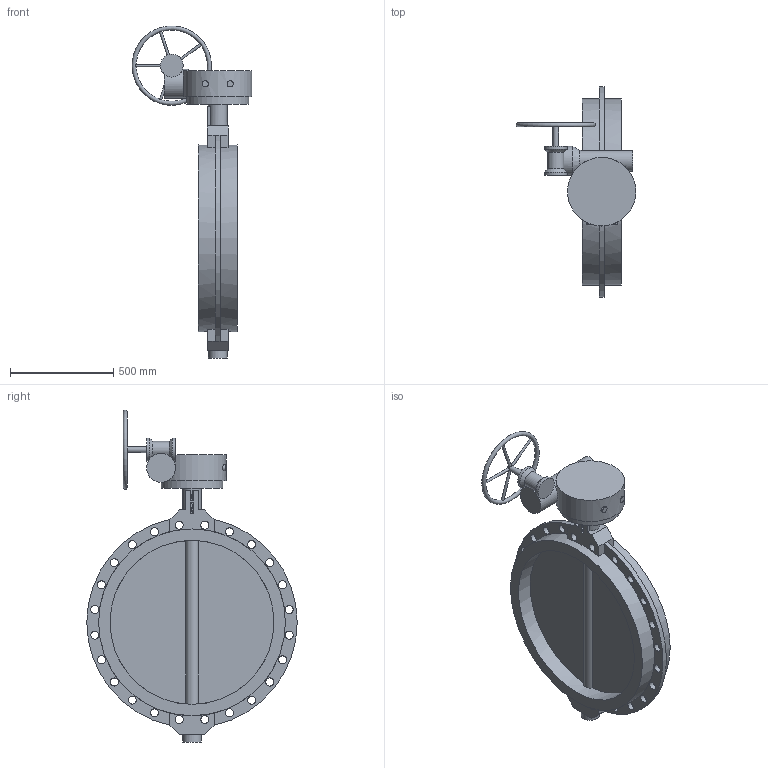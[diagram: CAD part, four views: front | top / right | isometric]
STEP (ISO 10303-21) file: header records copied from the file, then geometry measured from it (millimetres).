
FILE_DESCRIPTION(('STEP AP203'), '1');
FILE_NAME('Çàòâîð 017W.Z(÷óãóí) DN800 PN16 ðåäóêòîð', '', ('UNSPECIFIED'), ('UNSPECIFIED'), 'ASCON STEP Converter 1.6', 'ASCON Math Kernel', '');
FILE_SCHEMA(('CONFIG_CONTROL_DESIGN'));
Length unit declared in the file: millimetre
Bounding box: 581.49 x 1020 x 1609.22 mm (x, y, z)
Volume: 69155498.6 mm3; surface area: 3344899 mm2
Topology: 1 solids, 1 shells, 762 faces, 2136 edges, 1421 vertices
Faces by surface type: cylinder 565, plane 193, cone 3, torus 1
Full cylindrical faces by diameter (mm): 12 x5, 14 x8, 18 x8, 28 x1, 30 x2, 39 x24, 90 x2, 100 x1, 110 x2, 140 x1, 300 x1, 332 x1, 794.7 x2, 905 x2
Entity records: 33975 total; most frequent: CARTESIAN_POINT 7248, DIRECTION 4701, ORIENTED_EDGE 4146, EDGE_CURVE 2073, AXIS2_PLACEMENT_3D 1895, VERTEX_POINT 1420, CIRCLE 1132, EDGE_LOOP 925
